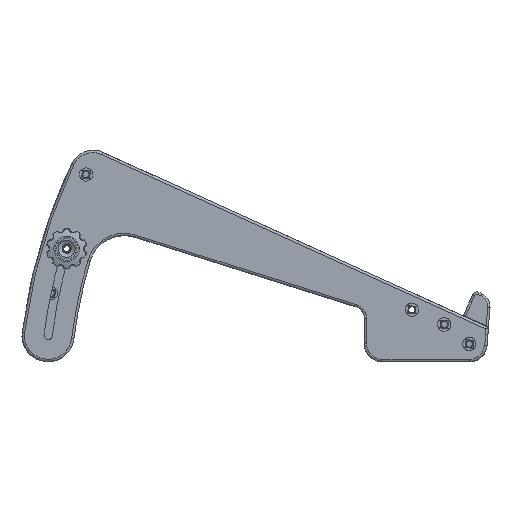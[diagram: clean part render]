
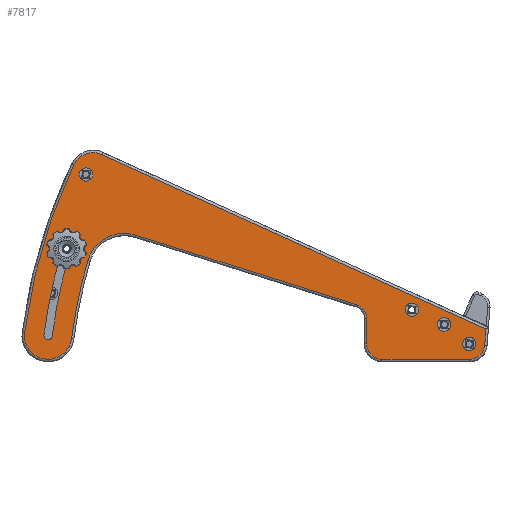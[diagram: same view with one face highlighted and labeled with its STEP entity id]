
A CAD part, left-side view. The second image highlights one B-rep face of the part: STEP entity #7817.
In plain terms, the highlighted planar face has unit normal (-1, 0, 0).
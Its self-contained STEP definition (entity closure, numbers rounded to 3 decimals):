
#233=FACE_BOUND('',#2419,.T.);
#234=FACE_BOUND('',#2420,.T.);
#235=FACE_BOUND('',#2421,.T.);
#236=FACE_BOUND('',#2422,.T.);
#237=FACE_BOUND('',#2423,.T.);
#280=PLANE('',#8360);
#513=LINE('',#11881,#1128);
#515=LINE('',#11892,#1130);
#518=LINE('',#11903,#1133);
#520=LINE('',#11936,#1135);
#521=LINE('',#11944,#1136);
#1128=VECTOR('',#9311,10.);
#1130=VECTOR('',#9323,10.);
#1133=VECTOR('',#9334,10.);
#1135=VECTOR('',#9378,10.);
#1136=VECTOR('',#9389,10.);
#1917=FACE_OUTER_BOUND('',#2418,.T.);
#2418=EDGE_LOOP('',(#5432,#5433,#5434,#5435,#5436,#5437,#5438,#5439,#5440,
#5441,#5442,#5443,#5444));
#2419=EDGE_LOOP('',(#5445));
#2420=EDGE_LOOP('',(#5446));
#2421=EDGE_LOOP('',(#5447,#5448,#5449,#5450));
#2422=EDGE_LOOP('',(#5451));
#2423=EDGE_LOOP('',(#5452));
#2952=CIRCLE('',#8317,16.);
#2958=CIRCLE('',#8325,6.);
#2963=CIRCLE('',#8334,9.);
#2966=CIRCLE('',#8338,232.787);
#2969=CIRCLE('',#8342,10.);
#2971=CIRCLE('',#8345,212.787);
#2975=CIRCLE('',#8350,6.5);
#2979=CIRCLE('',#8356,6.5);
#2981=CIRCLE('',#8361,2.8);
#2982=CIRCLE('',#8362,2.8);
#2983=CIRCLE('',#8363,224.537);
#2984=CIRCLE('',#8364,1.75);
#2985=CIRCLE('',#8365,221.037);
#2986=CIRCLE('',#8366,1.75);
#2987=CIRCLE('',#8367,2.85);
#2988=CIRCLE('',#8368,2.85);
#3452=VERTEX_POINT('',#11869);
#3453=VERTEX_POINT('',#11870);
#3457=VERTEX_POINT('',#11879);
#3459=VERTEX_POINT('',#11885);
#3460=VERTEX_POINT('',#11890);
#3461=VERTEX_POINT('',#11891);
#3465=VERTEX_POINT('',#11901);
#3467=VERTEX_POINT('',#11906);
#3469=VERTEX_POINT('',#11912);
#3471=VERTEX_POINT('',#11918);
#3472=VERTEX_POINT('',#11926);
#3474=VERTEX_POINT('',#11932);
#3476=VERTEX_POINT('',#11938);
#3480=VERTEX_POINT('',#11953);
#3481=VERTEX_POINT('',#11955);
#3482=VERTEX_POINT('',#11957);
#3483=VERTEX_POINT('',#11958);
#3484=VERTEX_POINT('',#11960);
#3485=VERTEX_POINT('',#11962);
#3486=VERTEX_POINT('',#11965);
#3487=VERTEX_POINT('',#11967);
#4179=EDGE_CURVE('',#3452,#3453,#2952,.T.);
#4184=EDGE_CURVE('',#3457,#3452,#513,.T.);
#4187=EDGE_CURVE('',#3459,#3457,#2958,.T.);
#4189=EDGE_CURVE('',#3460,#3461,#515,.T.);
#4195=EDGE_CURVE('',#3465,#3460,#518,.T.);
#4197=EDGE_CURVE('',#3467,#3465,#2963,.T.);
#4200=EDGE_CURVE('',#3469,#3467,#2966,.T.);
#4203=EDGE_CURVE('',#3471,#3469,#2969,.T.);
#4205=EDGE_CURVE('',#3453,#3471,#2971,.T.);
#4209=EDGE_CURVE('',#3461,#3472,#2975,.T.);
#4212=EDGE_CURVE('',#3472,#3474,#520,.T.);
#4215=EDGE_CURVE('',#3474,#3476,#2979,.T.);
#4216=EDGE_CURVE('',#3476,#3459,#521,.T.);
#4221=EDGE_CURVE('',#3480,#3480,#2981,.T.);
#4222=EDGE_CURVE('',#3481,#3481,#2982,.T.);
#4223=EDGE_CURVE('',#3482,#3483,#2983,.T.);
#4224=EDGE_CURVE('',#3484,#3483,#2984,.T.);
#4225=EDGE_CURVE('',#3484,#3485,#2985,.T.);
#4226=EDGE_CURVE('',#3485,#3482,#2986,.T.);
#4227=EDGE_CURVE('',#3486,#3486,#2987,.T.);
#4228=EDGE_CURVE('',#3487,#3487,#2988,.T.);
#5432=ORIENTED_EDGE('',*,*,#4179,.F.);
#5433=ORIENTED_EDGE('',*,*,#4184,.F.);
#5434=ORIENTED_EDGE('',*,*,#4187,.F.);
#5435=ORIENTED_EDGE('',*,*,#4216,.F.);
#5436=ORIENTED_EDGE('',*,*,#4215,.F.);
#5437=ORIENTED_EDGE('',*,*,#4212,.F.);
#5438=ORIENTED_EDGE('',*,*,#4209,.F.);
#5439=ORIENTED_EDGE('',*,*,#4189,.F.);
#5440=ORIENTED_EDGE('',*,*,#4195,.F.);
#5441=ORIENTED_EDGE('',*,*,#4197,.F.);
#5442=ORIENTED_EDGE('',*,*,#4200,.F.);
#5443=ORIENTED_EDGE('',*,*,#4203,.F.);
#5444=ORIENTED_EDGE('',*,*,#4205,.F.);
#5445=ORIENTED_EDGE('',*,*,#4221,.T.);
#5446=ORIENTED_EDGE('',*,*,#4222,.T.);
#5447=ORIENTED_EDGE('',*,*,#4223,.T.);
#5448=ORIENTED_EDGE('',*,*,#4224,.F.);
#5449=ORIENTED_EDGE('',*,*,#4225,.T.);
#5450=ORIENTED_EDGE('',*,*,#4226,.T.);
#5451=ORIENTED_EDGE('',*,*,#4227,.T.);
#5452=ORIENTED_EDGE('',*,*,#4228,.T.);
#7817=ADVANCED_FACE('',(#1917,#233,#234,#235,#236,#237),#280,.F.);
#8317=AXIS2_PLACEMENT_3D('',#11871,#9299,#9300);
#8325=AXIS2_PLACEMENT_3D('',#11887,#9317,#9318);
#8334=AXIS2_PLACEMENT_3D('',#11908,#9339,#9340);
#8338=AXIS2_PLACEMENT_3D('',#11914,#9347,#9348);
#8342=AXIS2_PLACEMENT_3D('',#11920,#9355,#9356);
#8345=AXIS2_PLACEMENT_3D('',#11923,#9361,#9362);
#8350=AXIS2_PLACEMENT_3D('',#11930,#9371,#9372);
#8356=AXIS2_PLACEMENT_3D('',#11942,#9385,#9386);
#8360=AXIS2_PLACEMENT_3D('',#11952,#9397,#9398);
#8361=AXIS2_PLACEMENT_3D('',#11954,#9399,#9400);
#8362=AXIS2_PLACEMENT_3D('',#11956,#9401,#9402);
#8363=AXIS2_PLACEMENT_3D('',#11959,#9403,#9404);
#8364=AXIS2_PLACEMENT_3D('',#11961,#9405,#9406);
#8365=AXIS2_PLACEMENT_3D('',#11963,#9407,#9408);
#8366=AXIS2_PLACEMENT_3D('',#11964,#9409,#9410);
#8367=AXIS2_PLACEMENT_3D('',#11966,#9411,#9412);
#8368=AXIS2_PLACEMENT_3D('',#11968,#9413,#9414);
#9299=DIRECTION('center_axis',(-1.,0.,0.));
#9300=DIRECTION('ref_axis',(0.,0.471,0.882));
#9311=DIRECTION('',(0.,0.954,0.3));
#9317=DIRECTION('center_axis',(-1.,0.,0.));
#9318=DIRECTION('ref_axis',(0.,-0.806,0.592));
#9323=DIRECTION('',(0.,0.077,-0.997));
#9334=DIRECTION('',(0.,-0.911,-0.413));
#9339=DIRECTION('center_axis',(1.,0.,0.));
#9340=DIRECTION('ref_axis',(0.,0.343,0.939));
#9347=DIRECTION('center_axis',(1.,0.,0.));
#9348=DIRECTION('ref_axis',(0.,0.959,0.282));
#9355=DIRECTION('center_axis',(1.,0.,0.));
#9356=DIRECTION('ref_axis',(0.,0.126,-0.992));
#9361=DIRECTION('center_axis',(-1.,0.,0.));
#9362=DIRECTION('ref_axis',(0.,0.971,0.239));
#9371=DIRECTION('center_axis',(1.,0.,0.));
#9372=DIRECTION('ref_axis',(0.,-0.679,-0.734));
#9378=DIRECTION('',(0.,1.,0.));
#9385=DIRECTION('center_axis',(1.,0.,0.));
#9386=DIRECTION('ref_axis',(0.,0.707,-0.707));
#9389=DIRECTION('',(0.,0.,1.));
#9397=DIRECTION('center_axis',(1.,0.,0.));
#9398=DIRECTION('ref_axis',(0.,1.,0.));
#9399=DIRECTION('center_axis',(1.,0.,0.));
#9400=DIRECTION('ref_axis',(0.,-0.997,-0.077));
#9401=DIRECTION('center_axis',(1.,0.,0.));
#9402=DIRECTION('ref_axis',(0.,-0.997,-0.077));
#9403=DIRECTION('center_axis',(1.,0.,0.));
#9404=DIRECTION('ref_axis',(0.,0.903,0.43));
#9405=DIRECTION('center_axis',(-1.,0.,0.));
#9406=DIRECTION('ref_axis',(0.,-0.997,-0.077));
#9407=DIRECTION('center_axis',(-1.,0.,0.));
#9408=DIRECTION('ref_axis',(0.,0.954,0.299));
#9409=DIRECTION('center_axis',(1.,0.,0.));
#9410=DIRECTION('ref_axis',(0.,0.992,0.126));
#9411=DIRECTION('center_axis',(1.,0.,0.));
#9412=DIRECTION('ref_axis',(0.,-0.997,-0.077));
#9413=DIRECTION('center_axis',(1.,0.,0.));
#9414=DIRECTION('ref_axis',(0.,-0.997,-0.077));
#11869=CARTESIAN_POINT('',(-124.,13.884,53.39));
#11870=CARTESIAN_POINT('',(-124.,34.044,42.62));
#11871=CARTESIAN_POINT('Origin',(-124.,18.687,38.128));
#11879=CARTESIAN_POINT('',(-124.,-79.301,24.064));
#11881=CARTESIAN_POINT('',(-124.,-81.499,23.372));
#11885=CARTESIAN_POINT('',(-124.,-83.5,18.341));
#11887=CARTESIAN_POINT('Origin',(-124.,-77.5,18.341));
#11890=CARTESIAN_POINT('',(-124.,-133.876,13.841));
#11891=CARTESIAN_POINT('',(-124.,-133.347,6.999));
#11892=CARTESIAN_POINT('',(-124.,-132.27,-6.942));
#11901=CARTESIAN_POINT('',(-124.,28.098,87.384));
#11903=CARTESIAN_POINT('',(-124.,-175.146,-4.897));
#11906=CARTESIAN_POINT('',(-124.,39.943,83.063));
#11908=CARTESIAN_POINT('Origin',(-124.,31.819,79.189));
#11912=CARTESIAN_POINT('',(-124.,60.74,12.263));
#11914=CARTESIAN_POINT('Origin',(-124.,-170.186,-17.115));
#11918=CARTESIAN_POINT('',(-124.,40.899,9.739));
#11920=CARTESIAN_POINT('Origin',(-124.,50.819,11.001));
#11923=CARTESIAN_POINT('Origin',(-124.,-170.186,-17.115));
#11926=CARTESIAN_POINT('',(-124.,-126.867,1.));
#11930=CARTESIAN_POINT('Origin',(-124.,-126.866,7.5));
#11932=CARTESIAN_POINT('',(-124.,-90.001,0.999));
#11936=CARTESIAN_POINT('',(-124.,-134.938,1.));
#11938=CARTESIAN_POINT('',(-124.,-83.501,7.499));
#11942=CARTESIAN_POINT('Origin',(-124.,-90.001,7.499));
#11944=CARTESIAN_POINT('',(-124.,-83.501,4.559));
#11952=CARTESIAN_POINT('Origin',(-124.,-187.375,-17.68));
#11953=CARTESIAN_POINT('',(-124.,37.597,79.185));
#11954=CARTESIAN_POINT('Origin',(-124.,34.805,78.969));
#11955=CARTESIAN_POINT('',(-124.,-124.073,7.693));
#11956=CARTESIAN_POINT('Origin',(-124.,-126.865,7.477));
#11957=CARTESIAN_POINT('',(-124.,52.555,11.222));
#11958=CARTESIAN_POINT('',(-124.,44.582,48.393));
#11959=CARTESIAN_POINT('Origin',(-124.,-170.186,-17.115));
#11960=CARTESIAN_POINT('',(-124.,41.234,47.372));
#11961=CARTESIAN_POINT('Origin',(-124.,42.908,47.883));
#11962=CARTESIAN_POINT('',(-124.,49.083,10.78));
#11963=CARTESIAN_POINT('Origin',(-124.,-170.186,-17.115));
#11964=CARTESIAN_POINT('Origin',(-124.,50.819,11.001));
#11965=CARTESIAN_POINT('',(-124.,-113.439,15.92));
#11966=CARTESIAN_POINT('Origin',(-124.,-116.28,15.7));
#11967=CARTESIAN_POINT('',(-124.,-99.775,22.109));
#11968=CARTESIAN_POINT('Origin',(-124.,-102.617,21.889));
